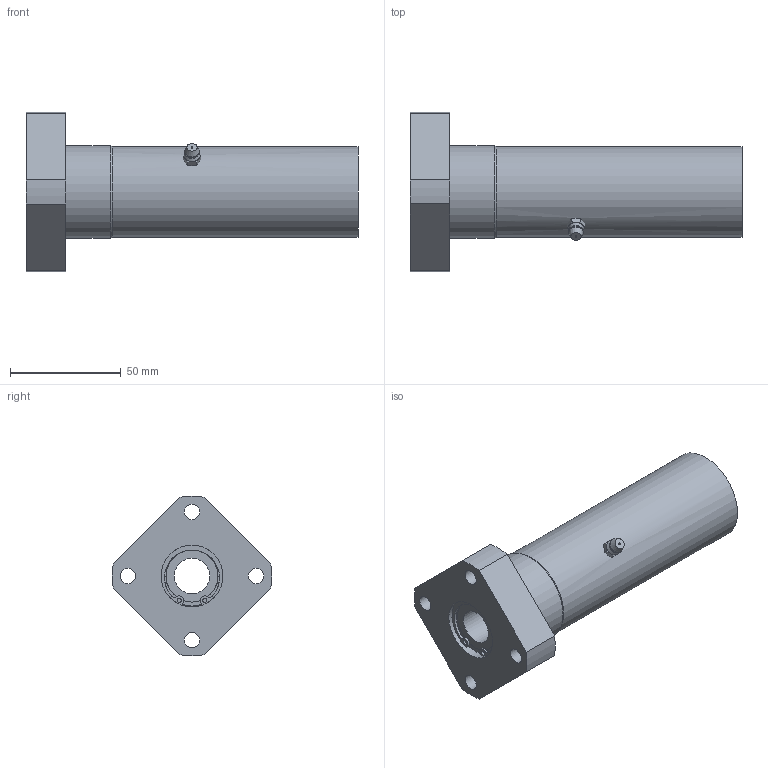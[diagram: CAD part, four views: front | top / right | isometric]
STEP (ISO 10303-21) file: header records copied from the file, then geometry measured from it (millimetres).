
FILE_DESCRIPTION((''),'2;1');
FILE_NAME('D:\製品 (図面)\カタログ用3D\リニアベアリング関連(改)\STEP形式\LFWL\LFWL16.stp','2010-01-22T16:32:33',('Tsuchiya'),(''),'Autodesk Inventor 10','Autodesk Inventor 10','');
FILE_SCHEMA(('AUTOMOTIVE_DESIGN { 1 0 10303 214 1 1 1 1 }'));
Length unit declared in the file: millimetre
Products named in the file (1): LFWL16
Bounding box: 150 x 71.91 x 71.91 mm (x, y, z)
Volume: 198720 mm3; surface area: 39565.9 mm2
Topology: 1 solids, 7 shells, 114 faces, 270 edges, 169 vertices
Faces by surface type: bspline 36, plane 35, cylinder 31, cone 8, sphere 2, torus 2
Full cylindrical faces by diameter (mm): 2 x2, 7 x4, 16 x2, 23.5 x2, 26.6 x2, 28 x8, 41 x1, 42 x1
Entity records: 3359 total; most frequent: CARTESIAN_POINT 975, DIRECTION 502, ORIENTED_EDGE 420, AXIS2_PLACEMENT_3D 225, EDGE_CURVE 210, EDGE_LOOP 188, VERTEX_POINT 150, CIRCLE 142
